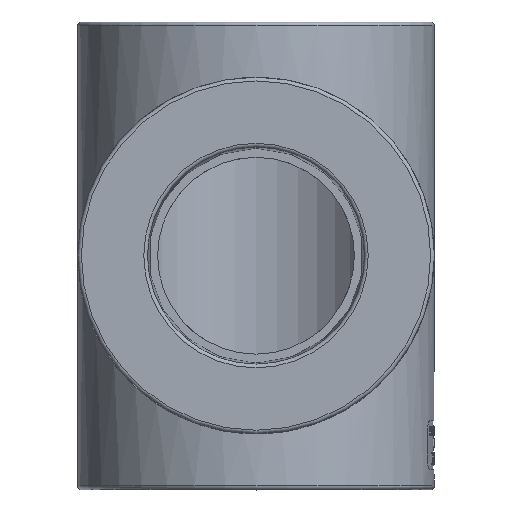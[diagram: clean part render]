
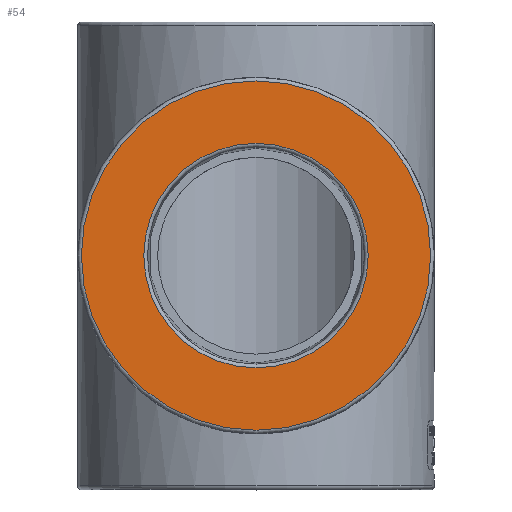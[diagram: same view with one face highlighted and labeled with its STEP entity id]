
A CAD part, top view. The second image highlights one B-rep face of the part: STEP entity #54.
In plain terms, the highlighted planar face has unit normal (0, 0, 1).
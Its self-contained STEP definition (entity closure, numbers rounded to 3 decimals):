
#54=ADVANCED_FACE('',(#615,#617),#619,.T.);
#615=FACE_BOUND('',#616,.T.);
#616=EDGE_LOOP('',(#4268));
#617=FACE_BOUND('',#618,.T.);
#618=EDGE_LOOP('',(#4269));
#619=PLANE('',#620);
#620=AXIS2_PLACEMENT_3D('',#621,#622,#623);
#621=CARTESIAN_POINT('',(0.,0.,94.5));
#622=DIRECTION('',(0.,0.,1.));
#623=DIRECTION('',(-1.,0.,0.));
#4268=ORIENTED_EDGE('',*,*,#8273,.T.);
#4269=ORIENTED_EDGE('',*,*,#8274,.T.);
#8273=EDGE_CURVE('',#9802,#9802,#9803,.T.);
#8274=EDGE_CURVE('',#9804,#9804,#9805,.T.);
#9802=VERTEX_POINT('',#12360);
#9803=CIRCLE('',#12361,71.);
#9804=VERTEX_POINT('',#12365);
#9805=CIRCLE('',#12366,45.623);
#12360=CARTESIAN_POINT('',(-71.,0.,94.5));
#12361=AXIS2_PLACEMENT_3D('',#12362,#12363,#12364);
#12362=CARTESIAN_POINT('',(0.,0.,94.5));
#12363=DIRECTION('',(0.,0.,1.));
#12364=DIRECTION('',(-1.,0.,0.));
#12365=CARTESIAN_POINT('',(0.,45.623,94.5));
#12366=AXIS2_PLACEMENT_3D('',#12367,#12368,#12369);
#12367=CARTESIAN_POINT('',(0.,0.,94.5));
#12368=DIRECTION('',(0.,0.,-1.));
#12369=DIRECTION('',(0.,1.,0.));
